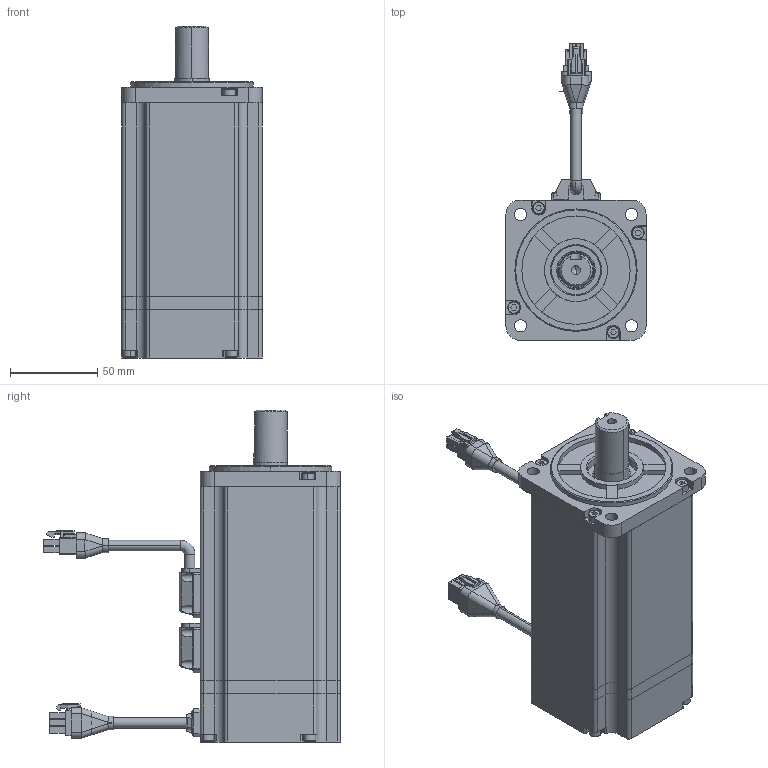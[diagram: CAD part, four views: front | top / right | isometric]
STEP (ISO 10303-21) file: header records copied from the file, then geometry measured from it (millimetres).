
FILE_DESCRIPTION((''),'2;1');
FILE_NAME('R80-750W_BARKE_ASM','2018-11-26T',('JIANGFEI6'),(''),'CREO PARAMETRIC BY PTC INC, 2015480','CREO PARAMETRIC BY PTC INC, 2015480','');
FILE_SCHEMA(('CONFIG_CONTROL_DESIGN'));
Length unit declared in the file: millimetre
Products named in the file (17): __-001-2859; ___-001-6639; ___-001-12601; __-001-15577; M4X20; 6004; ___-001-22667; _____-26403; ______-28177; _____-35441; M2_5X5; ______-37185; ______-39655; ________; ______-45887; _______; R80-750W_BARKE_ASM
Assembly tree (52 placements, depth 2):
  R80-750W_BARKE_ASM
    __-001-2859
    ___-001-6639
    ___-001-12601
    __-001-15577
    M4X20  x8
    6004
    ___-001-22667
    _____-26403  x4
    ______-28177  x4
    _____-35441  x3
    M2_5X5  x20
    ______-37185  x3
    ______-39655
    ________
    ______-45887
    _______
Bounding box: 80.2 x 170 x 190 mm (x, y, z)
Volume: 347400 mm3; surface area: 187933.1 mm2
Topology: 51 solids, 97 shells, 2662 faces, 7741 edges, 5166 vertices
Faces by surface type: plane 1347, cylinder 1033, cone 117, torus 83, sphere 82
Entity records: 42764 total; most frequent: CARTESIAN_POINT 9861, DIRECTION 6798, ORIENTED_EDGE 6635, EDGE_CURVE 3507, AXIS2_PLACEMENT_3D 2444, VERTEX_POINT 2346, VECTOR 1910, LINE 1910
